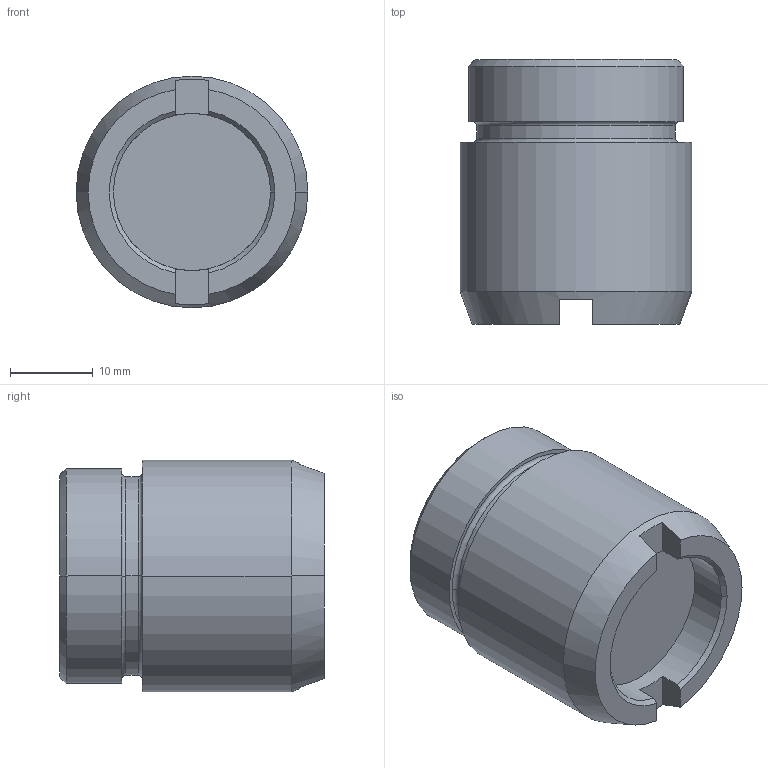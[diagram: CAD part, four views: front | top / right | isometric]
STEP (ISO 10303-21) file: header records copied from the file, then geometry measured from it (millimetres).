
FILE_DESCRIPTION((''),'2;1');
FILE_NAME('11269900_198323','2019-07-04T',('c.kretz'),(''),'PRO/ENGINEER BY PARAMETRIC TECHNOLOGY CORPORATION, 2015110','PRO/ENGINEER BY PARAMETRIC TECHNOLOGY CORPORATION, 2015110','');
FILE_SCHEMA(('AUTOMOTIVE_DESIGN { 1 0 10303 214 1 1 1 1 }'));
Length unit declared in the file: millimetre
Products named in the file (1): 11269900_198323
Bounding box: 28 x 32 x 28 mm (x, y, z)
Volume: 15742.1 mm3; surface area: 4442.9 mm2
Topology: 1 solids, 1 shells, 36 faces, 83 edges, 52 vertices
Faces by surface type: plane 13, cylinder 10, cone 9, torus 4
Entity records: 1961 total; most frequent: CARTESIAN_POINT 207, DIRECTION 193, ORIENTED_EDGE 166, PROPERTY_DEFINITION 92, REPRESENTATION 91, PROPERTY_DEFINITION_REPRESENTATION 91, PRESENTATION_STYLE_ASSIGNMENT 90, STYLED_ITEM 84
